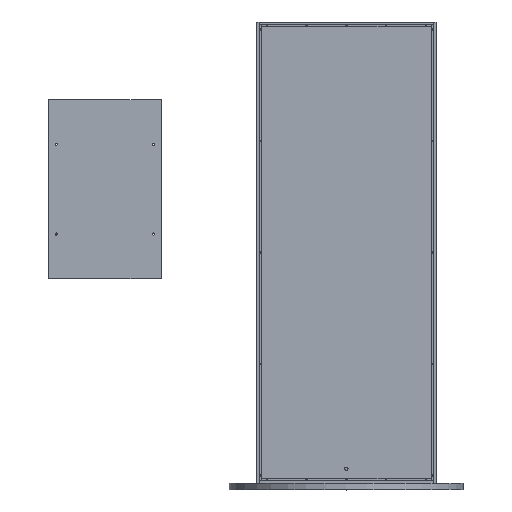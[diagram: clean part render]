
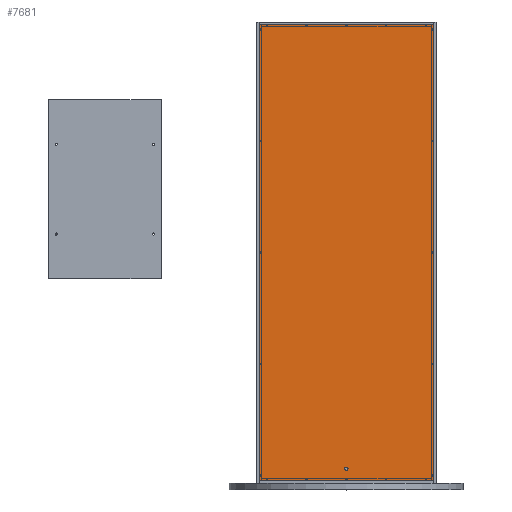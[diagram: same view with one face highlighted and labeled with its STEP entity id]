
A CAD part, top view. The second image highlights one B-rep face of the part: STEP entity #7681.
In plain terms, the highlighted planar face has unit normal (0, 0, 1).
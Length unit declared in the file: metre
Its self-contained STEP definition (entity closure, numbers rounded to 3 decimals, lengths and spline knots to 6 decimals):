
#780=CIRCLE('',#8440,0.0032);
#781=CIRCLE('',#8441,0.00135);
#782=CIRCLE('',#8442,0.00135);
#783=CIRCLE('',#8443,0.00135);
#784=CIRCLE('',#8444,0.00135);
#785=CIRCLE('',#8445,0.00135);
#786=CIRCLE('',#8446,0.00135);
#787=CIRCLE('',#8447,0.00135);
#788=CIRCLE('',#8448,0.00135);
#789=CIRCLE('',#8449,0.00135);
#790=CIRCLE('',#8450,0.00135);
#791=CIRCLE('',#8451,0.00135);
#792=CIRCLE('',#8452,0.00135);
#793=CIRCLE('',#8453,0.00135);
#794=CIRCLE('',#8454,0.00135);
#795=CIRCLE('',#8455,0.00135);
#796=CIRCLE('',#8456,0.00135);
#797=CIRCLE('',#8457,0.00135);
#798=CIRCLE('',#8458,0.00135);
#799=CIRCLE('',#8459,0.00135);
#800=CIRCLE('',#8460,0.00135);
#1500=ORIENTED_EDGE('',*,*,#2928,.T.);
#1501=ORIENTED_EDGE('',*,*,#2929,.T.);
#1502=ORIENTED_EDGE('',*,*,#2930,.T.);
#1503=ORIENTED_EDGE('',*,*,#2931,.T.);
#1504=ORIENTED_EDGE('',*,*,#2932,.T.);
#1505=ORIENTED_EDGE('',*,*,#2933,.T.);
#1506=ORIENTED_EDGE('',*,*,#2934,.T.);
#1507=ORIENTED_EDGE('',*,*,#2935,.T.);
#1508=ORIENTED_EDGE('',*,*,#2936,.T.);
#1509=ORIENTED_EDGE('',*,*,#2937,.T.);
#1510=ORIENTED_EDGE('',*,*,#2938,.T.);
#1511=ORIENTED_EDGE('',*,*,#2939,.T.);
#1512=ORIENTED_EDGE('',*,*,#2940,.T.);
#1513=ORIENTED_EDGE('',*,*,#2941,.T.);
#1514=ORIENTED_EDGE('',*,*,#2942,.T.);
#1515=ORIENTED_EDGE('',*,*,#2943,.T.);
#1516=ORIENTED_EDGE('',*,*,#2944,.T.);
#1517=ORIENTED_EDGE('',*,*,#2945,.T.);
#1518=ORIENTED_EDGE('',*,*,#2946,.T.);
#1519=ORIENTED_EDGE('',*,*,#2947,.T.);
#1520=ORIENTED_EDGE('',*,*,#2948,.T.);
#1521=ORIENTED_EDGE('',*,*,#2918,.F.);
#1522=ORIENTED_EDGE('',*,*,#2922,.F.);
#1523=ORIENTED_EDGE('',*,*,#2925,.T.);
#1524=ORIENTED_EDGE('',*,*,#2927,.T.);
#2918=EDGE_CURVE('',#3670,#3671,#4524,.T.);
#2922=EDGE_CURVE('',#3673,#3670,#4528,.T.);
#2925=EDGE_CURVE('',#3673,#3675,#4531,.T.);
#2927=EDGE_CURVE('',#3675,#3671,#4533,.T.);
#2928=EDGE_CURVE('',#3676,#3676,#780,.T.);
#2929=EDGE_CURVE('',#3677,#3677,#781,.T.);
#2930=EDGE_CURVE('',#3678,#3678,#782,.T.);
#2931=EDGE_CURVE('',#3679,#3679,#783,.T.);
#2932=EDGE_CURVE('',#3680,#3680,#784,.T.);
#2933=EDGE_CURVE('',#3681,#3681,#785,.T.);
#2934=EDGE_CURVE('',#3682,#3682,#786,.T.);
#2935=EDGE_CURVE('',#3683,#3683,#787,.T.);
#2936=EDGE_CURVE('',#3684,#3684,#788,.T.);
#2937=EDGE_CURVE('',#3685,#3685,#789,.T.);
#2938=EDGE_CURVE('',#3686,#3686,#790,.T.);
#2939=EDGE_CURVE('',#3687,#3687,#791,.T.);
#2940=EDGE_CURVE('',#3688,#3688,#792,.T.);
#2941=EDGE_CURVE('',#3689,#3689,#793,.T.);
#2942=EDGE_CURVE('',#3690,#3690,#794,.T.);
#2943=EDGE_CURVE('',#3691,#3691,#795,.T.);
#2944=EDGE_CURVE('',#3692,#3692,#796,.T.);
#2945=EDGE_CURVE('',#3693,#3693,#797,.T.);
#2946=EDGE_CURVE('',#3694,#3694,#798,.T.);
#2947=EDGE_CURVE('',#3695,#3695,#799,.T.);
#2948=EDGE_CURVE('',#3696,#3696,#800,.T.);
#3670=VERTEX_POINT('',#12241);
#3671=VERTEX_POINT('',#12243);
#3673=VERTEX_POINT('',#12249);
#3675=VERTEX_POINT('',#12255);
#3676=VERTEX_POINT('',#12262);
#3677=VERTEX_POINT('',#12264);
#3678=VERTEX_POINT('',#12266);
#3679=VERTEX_POINT('',#12268);
#3680=VERTEX_POINT('',#12270);
#3681=VERTEX_POINT('',#12272);
#3682=VERTEX_POINT('',#12274);
#3683=VERTEX_POINT('',#12276);
#3684=VERTEX_POINT('',#12278);
#3685=VERTEX_POINT('',#12280);
#3686=VERTEX_POINT('',#12282);
#3687=VERTEX_POINT('',#12284);
#3688=VERTEX_POINT('',#12286);
#3689=VERTEX_POINT('',#12288);
#3690=VERTEX_POINT('',#12290);
#3691=VERTEX_POINT('',#12292);
#3692=VERTEX_POINT('',#12294);
#3693=VERTEX_POINT('',#12296);
#3694=VERTEX_POINT('',#12298);
#3695=VERTEX_POINT('',#12300);
#3696=VERTEX_POINT('',#12302);
#4524=LINE('',#12242,#4716);
#4528=LINE('',#12250,#4720);
#4531=LINE('',#12256,#4723);
#4533=LINE('',#12259,#4725);
#4716=VECTOR('',#9750,1.);
#4720=VECTOR('',#9756,1.);
#4723=VECTOR('',#9761,1.);
#4725=VECTOR('',#9765,1.);
#5012=EDGE_LOOP('',(#1500));
#5013=EDGE_LOOP('',(#1501));
#5014=EDGE_LOOP('',(#1502));
#5015=EDGE_LOOP('',(#1503));
#5016=EDGE_LOOP('',(#1504));
#5017=EDGE_LOOP('',(#1505));
#5018=EDGE_LOOP('',(#1506));
#5019=EDGE_LOOP('',(#1507));
#5020=EDGE_LOOP('',(#1508));
#5021=EDGE_LOOP('',(#1509));
#5022=EDGE_LOOP('',(#1510));
#5023=EDGE_LOOP('',(#1511));
#5024=EDGE_LOOP('',(#1512));
#5025=EDGE_LOOP('',(#1513));
#5026=EDGE_LOOP('',(#1514));
#5027=EDGE_LOOP('',(#1515));
#5028=EDGE_LOOP('',(#1516));
#5029=EDGE_LOOP('',(#1517));
#5030=EDGE_LOOP('',(#1518));
#5031=EDGE_LOOP('',(#1519));
#5032=EDGE_LOOP('',(#1520));
#5033=EDGE_LOOP('',(#1521,#1522,#1523,#1524));
#6244=FACE_BOUND('',#5012,.T.);
#6245=FACE_BOUND('',#5013,.T.);
#6246=FACE_BOUND('',#5014,.T.);
#6247=FACE_BOUND('',#5015,.T.);
#6248=FACE_BOUND('',#5016,.T.);
#6249=FACE_BOUND('',#5017,.T.);
#6250=FACE_BOUND('',#5018,.T.);
#6251=FACE_BOUND('',#5019,.T.);
#6252=FACE_BOUND('',#5020,.T.);
#6253=FACE_BOUND('',#5021,.T.);
#6254=FACE_BOUND('',#5022,.T.);
#6255=FACE_BOUND('',#5023,.T.);
#6256=FACE_BOUND('',#5024,.T.);
#6257=FACE_BOUND('',#5025,.T.);
#6258=FACE_BOUND('',#5026,.T.);
#6259=FACE_BOUND('',#5027,.T.);
#6260=FACE_BOUND('',#5028,.T.);
#6261=FACE_BOUND('',#5029,.T.);
#6262=FACE_BOUND('',#5030,.T.);
#6263=FACE_BOUND('',#5031,.T.);
#6264=FACE_BOUND('',#5032,.T.);
#6265=FACE_BOUND('',#5033,.T.);
#7558=PLANE('',#8439);
#7681=ADVANCED_FACE('',(#6244,#6245,#6246,#6247,#6248,#6249,#6250,#6251,
#6252,#6253,#6254,#6255,#6256,#6257,#6258,#6259,#6260,#6261,#6262,#6263,
#6264,#6265),#7558,.T.);
#8439=AXIS2_PLACEMENT_3D('',#12260,#9766,#9767);
#8440=AXIS2_PLACEMENT_3D('',#12261,#9768,#9769);
#8441=AXIS2_PLACEMENT_3D('',#12263,#9770,#9771);
#8442=AXIS2_PLACEMENT_3D('',#12265,#9772,#9773);
#8443=AXIS2_PLACEMENT_3D('',#12267,#9774,#9775);
#8444=AXIS2_PLACEMENT_3D('',#12269,#9776,#9777);
#8445=AXIS2_PLACEMENT_3D('',#12271,#9778,#9779);
#8446=AXIS2_PLACEMENT_3D('',#12273,#9780,#9781);
#8447=AXIS2_PLACEMENT_3D('',#12275,#9782,#9783);
#8448=AXIS2_PLACEMENT_3D('',#12277,#9784,#9785);
#8449=AXIS2_PLACEMENT_3D('',#12279,#9786,#9787);
#8450=AXIS2_PLACEMENT_3D('',#12281,#9788,#9789);
#8451=AXIS2_PLACEMENT_3D('',#12283,#9790,#9791);
#8452=AXIS2_PLACEMENT_3D('',#12285,#9792,#9793);
#8453=AXIS2_PLACEMENT_3D('',#12287,#9794,#9795);
#8454=AXIS2_PLACEMENT_3D('',#12289,#9796,#9797);
#8455=AXIS2_PLACEMENT_3D('',#12291,#9798,#9799);
#8456=AXIS2_PLACEMENT_3D('',#12293,#9800,#9801);
#8457=AXIS2_PLACEMENT_3D('',#12295,#9802,#9803);
#8458=AXIS2_PLACEMENT_3D('',#12297,#9804,#9805);
#8459=AXIS2_PLACEMENT_3D('',#12299,#9806,#9807);
#8460=AXIS2_PLACEMENT_3D('',#12301,#9808,#9809);
#9750=DIRECTION('',(1.,0.,0.));
#9756=DIRECTION('',(0.,1.,0.));
#9761=DIRECTION('',(1.,0.,0.));
#9765=DIRECTION('',(0.,1.,0.));
#9766=DIRECTION('',(0.,0.,1.));
#9767=DIRECTION('',(1.,0.,0.));
#9768=DIRECTION('',(0.,0.,-1.));
#9769=DIRECTION('',(-1.,0.,0.));
#9770=DIRECTION('',(0.,0.,-1.));
#9771=DIRECTION('',(-1.,0.,0.));
#9772=DIRECTION('',(0.,0.,-1.));
#9773=DIRECTION('',(-1.,0.,0.));
#9774=DIRECTION('',(0.,0.,-1.));
#9775=DIRECTION('',(-1.,0.,0.));
#9776=DIRECTION('',(0.,0.,-1.));
#9777=DIRECTION('',(-1.,0.,0.));
#9778=DIRECTION('',(0.,0.,-1.));
#9779=DIRECTION('',(-1.,0.,0.));
#9780=DIRECTION('',(0.,0.,-1.));
#9781=DIRECTION('',(-1.,0.,0.));
#9782=DIRECTION('',(0.,0.,-1.));
#9783=DIRECTION('',(-1.,0.,0.));
#9784=DIRECTION('',(0.,0.,-1.));
#9785=DIRECTION('',(-1.,0.,0.));
#9786=DIRECTION('',(0.,0.,-1.));
#9787=DIRECTION('',(-1.,0.,0.));
#9788=DIRECTION('',(0.,0.,-1.));
#9789=DIRECTION('',(-1.,0.,0.));
#9790=DIRECTION('',(0.,0.,-1.));
#9791=DIRECTION('',(-1.,0.,0.));
#9792=DIRECTION('',(0.,0.,-1.));
#9793=DIRECTION('',(-1.,0.,0.));
#9794=DIRECTION('',(0.,0.,-1.));
#9795=DIRECTION('',(-1.,0.,0.));
#9796=DIRECTION('',(0.,0.,-1.));
#9797=DIRECTION('',(-1.,0.,0.));
#9798=DIRECTION('',(0.,0.,-1.));
#9799=DIRECTION('',(-1.,0.,0.));
#9800=DIRECTION('',(0.,0.,-1.));
#9801=DIRECTION('',(-1.,0.,0.));
#9802=DIRECTION('',(0.,0.,-1.));
#9803=DIRECTION('',(-1.,0.,0.));
#9804=DIRECTION('',(0.,0.,-1.));
#9805=DIRECTION('',(-1.,0.,0.));
#9806=DIRECTION('',(0.,0.,-1.));
#9807=DIRECTION('',(-1.,0.,0.));
#9808=DIRECTION('',(0.,0.,-1.));
#9809=DIRECTION('',(-1.,0.,0.));
#12241=CARTESIAN_POINT('',(-0.170238,0.445238,0.2317));
#12242=CARTESIAN_POINT('',(0.,0.445238,0.2317));
#12243=CARTESIAN_POINT('',(0.170238,0.445238,0.2317));
#12249=CARTESIAN_POINT('',(-0.170238,-0.445238,0.2317));
#12250=CARTESIAN_POINT('',(-0.170238,0.,0.2317));
#12255=CARTESIAN_POINT('',(0.170238,-0.445238,0.2317));
#12256=CARTESIAN_POINT('',(0.,-0.445238,0.2317));
#12259=CARTESIAN_POINT('',(0.170238,0.,0.2317));
#12260=CARTESIAN_POINT('',(0.,0.,0.2317));
#12261=CARTESIAN_POINT('',(0.,-0.421704,0.2317));
#12262=CARTESIAN_POINT('',(-0.0032,-0.421704,0.2317));
#12263=CARTESIAN_POINT('',(-0.167856,-0.217619,0.2317));
#12264=CARTESIAN_POINT('',(-0.169206,-0.217619,0.2317));
#12265=CARTESIAN_POINT('',(-0.167856,-0.435238,0.2317));
#12266=CARTESIAN_POINT('',(-0.169206,-0.435238,0.2317));
#12267=CARTESIAN_POINT('',(-0.155475,-0.442856,0.2317));
#12268=CARTESIAN_POINT('',(-0.156825,-0.442856,0.2317));
#12269=CARTESIAN_POINT('',(-0.077737,-0.442856,0.2317));
#12270=CARTESIAN_POINT('',(-0.079087,-0.442856,0.2317));
#12271=CARTESIAN_POINT('',(0.000001,-0.442856,0.2317));
#12272=CARTESIAN_POINT('',(-0.001349,-0.442856,0.2317));
#12273=CARTESIAN_POINT('',(0.07774,-0.442856,0.2317));
#12274=CARTESIAN_POINT('',(0.07639,-0.442856,0.2317));
#12275=CARTESIAN_POINT('',(0.155475,-0.442856,0.2317));
#12276=CARTESIAN_POINT('',(0.154125,-0.442856,0.2317));
#12277=CARTESIAN_POINT('',(0.167856,-0.435238,0.2317));
#12278=CARTESIAN_POINT('',(0.166506,-0.435238,0.2317));
#12279=CARTESIAN_POINT('',(0.167856,-0.217619,0.2317));
#12280=CARTESIAN_POINT('',(0.166506,-0.217619,0.2317));
#12281=CARTESIAN_POINT('',(0.167856,0.,0.2317));
#12282=CARTESIAN_POINT('',(0.166506,0.,0.2317));
#12283=CARTESIAN_POINT('',(0.167856,0.21762,0.2317));
#12284=CARTESIAN_POINT('',(0.166506,0.21762,0.2317));
#12285=CARTESIAN_POINT('',(0.167856,0.435238,0.2317));
#12286=CARTESIAN_POINT('',(0.166506,0.435238,0.2317));
#12287=CARTESIAN_POINT('',(0.155475,0.442856,0.2317));
#12288=CARTESIAN_POINT('',(0.154125,0.442856,0.2317));
#12289=CARTESIAN_POINT('',(0.07774,0.442856,0.2317));
#12290=CARTESIAN_POINT('',(0.07639,0.442856,0.2317));
#12291=CARTESIAN_POINT('',(0.000001,0.442856,0.2317));
#12292=CARTESIAN_POINT('',(-0.001349,0.442856,0.2317));
#12293=CARTESIAN_POINT('',(-0.077737,0.442856,0.2317));
#12294=CARTESIAN_POINT('',(-0.079087,0.442856,0.2317));
#12295=CARTESIAN_POINT('',(-0.167856,0.,0.2317));
#12296=CARTESIAN_POINT('',(-0.169206,0.,0.2317));
#12297=CARTESIAN_POINT('',(-0.167856,0.21762,0.2317));
#12298=CARTESIAN_POINT('',(-0.169206,0.21762,0.2317));
#12299=CARTESIAN_POINT('',(-0.167856,0.435238,0.2317));
#12300=CARTESIAN_POINT('',(-0.169206,0.435238,0.2317));
#12301=CARTESIAN_POINT('',(-0.155475,0.442856,0.2317));
#12302=CARTESIAN_POINT('',(-0.156825,0.442856,0.2317));
